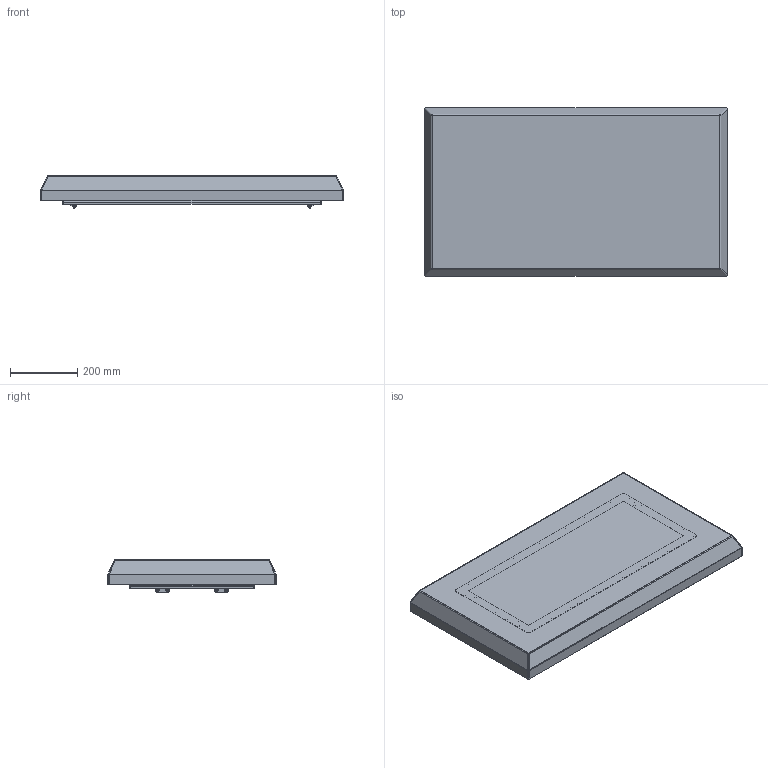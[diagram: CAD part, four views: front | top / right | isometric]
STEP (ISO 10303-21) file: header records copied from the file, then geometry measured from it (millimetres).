
FILE_DESCRIPTION(('STEP AP203'), '1');
FILE_NAME('3339 ÑÁ Óëè÷íàÿ êðûøà', '', ('UNSPECIFIED'), ('UNSPECIFIED'), 'C3D Converter', 'C3D Toolkit', '');
FILE_SCHEMA(('CONFIG_CONTROL_DESIGN'));
Length unit declared in the file: millimetre
Products named in the file (6): 3339.40.80 СБ; 3343; 3357
Assembly tree (21 placements, depth 2):
  3339.40.80 СБ
    3343
    3357  x4
    (unnamed)  x4
    (unnamed)  x4
    (unnamed)  x8
Bounding box: 900 x 500 x 96 mm (x, y, z)
Volume: 1490933 mm3; surface area: 1800297.2 mm2
Topology: 22 solids, 22 shells, 602 faces, 1380 edges, 836 vertices
Faces by surface type: plane 230, cylinder 144, cone 120, bspline 64, torus 28, sphere 16
Full cylindrical faces by diameter (mm): 4.8 x8, 4.917 x4, 6 x4, 6.6 x4, 6.75 x4, 7 x8, 10 x4, 12 x4
Entity records: 12795 total; most frequent: CARTESIAN_POINT 6373, DIRECTION 1234, ORIENTED_EDGE 1038, EDGE_CURVE 519, AXIS2_PLACEMENT_3D 495, VERTEX_POINT 307, EDGE_LOOP 304, FACE_BOUND 264
